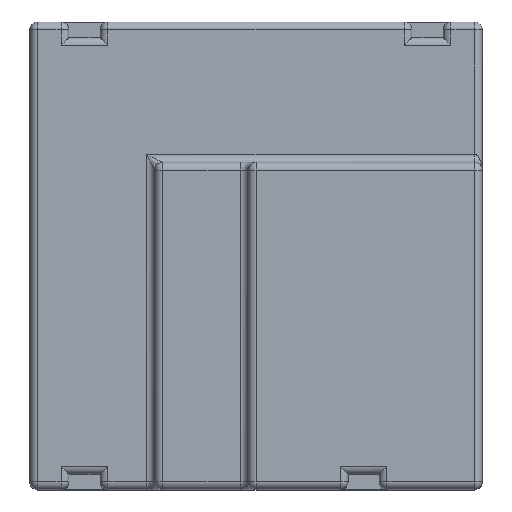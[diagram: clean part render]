
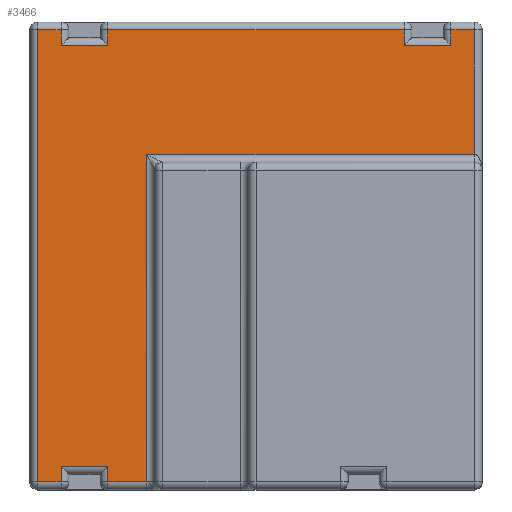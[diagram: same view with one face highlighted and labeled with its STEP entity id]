
A CAD part, top view. The second image highlights one B-rep face of the part: STEP entity #3466.
In plain terms, the highlighted planar face has unit normal (0, 0, 1).
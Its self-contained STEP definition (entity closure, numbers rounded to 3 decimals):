
#67=DIRECTION('',(0.,-1.,0.));
#68=VECTOR('',#67,21.);
#69=CARTESIAN_POINT('',(7.5,-8.5,10.2));
#70=LINE('',#69,#68);
#683=CARTESIAN_POINT('',(7.5,-8.5,10.2));
#693=DIRECTION('',(-1.,0.,0.));
#694=VECTOR('',#693,21.);
#695=CARTESIAN_POINT('',(28.5,-8.5,10.2));
#696=LINE('',#695,#694);
#719=DIRECTION('',(0.,1.,0.));
#720=VECTOR('',#719,1.);
#721=CARTESIAN_POINT('',(27.,-1.5,10.2));
#722=LINE('',#721,#720);
#1004=DIRECTION('',(0.,-1.,0.));
#1005=VECTOR('',#1004,8.);
#1006=CARTESIAN_POINT('',(28.5,-0.5,10.2));
#1007=LINE('',#1006,#1005);
#1035=DIRECTION('',(1.,0.,0.));
#1036=VECTOR('',#1035,1.5);
#1037=CARTESIAN_POINT('',(27.,-0.5,10.2));
#1038=LINE('',#1037,#1036);
#1099=DIRECTION('',(1.,0.,0.));
#1100=VECTOR('',#1099,3.);
#1101=CARTESIAN_POINT('',(24.,-1.5,10.2));
#1102=LINE('',#1101,#1100);
#1149=CARTESIAN_POINT('',(27.,-1.5,10.2));
#1166=DIRECTION('',(0.,-1.,0.));
#1167=VECTOR('',#1166,1.);
#1168=CARTESIAN_POINT('',(24.,-0.5,10.2));
#1169=LINE('',#1168,#1167);
#1213=DIRECTION('',(1.,0.,0.));
#1214=VECTOR('',#1213,19.);
#1215=CARTESIAN_POINT('',(5.,-0.5,10.2));
#1216=LINE('',#1215,#1214);
#1267=DIRECTION('',(0.,1.,0.));
#1268=VECTOR('',#1267,1.);
#1269=CARTESIAN_POINT('',(5.,-1.5,10.2));
#1270=LINE('',#1269,#1268);
#1311=DIRECTION('',(1.,0.,0.));
#1312=VECTOR('',#1311,3.);
#1313=CARTESIAN_POINT('',(2.,-1.5,10.2));
#1314=LINE('',#1313,#1312);
#1405=DIRECTION('',(0.,-1.,0.));
#1406=VECTOR('',#1405,1.);
#1407=CARTESIAN_POINT('',(2.,-0.5,10.2));
#1408=LINE('',#1407,#1406);
#1474=DIRECTION('',(1.,0.,0.));
#1475=VECTOR('',#1474,1.5);
#1476=CARTESIAN_POINT('',(0.5,-0.5,10.2));
#1477=LINE('',#1476,#1475);
#1520=DIRECTION('',(0.,1.,0.));
#1521=VECTOR('',#1520,29.);
#1522=CARTESIAN_POINT('',(0.5,-29.5,10.2));
#1523=LINE('',#1522,#1521);
#1573=DIRECTION('',(-1.,0.,0.));
#1574=VECTOR('',#1573,1.5);
#1575=CARTESIAN_POINT('',(2.,-29.5,10.2));
#1576=LINE('',#1575,#1574);
#1620=DIRECTION('',(0.,-1.,0.));
#1621=VECTOR('',#1620,1.);
#1622=CARTESIAN_POINT('',(2.,-28.5,10.2));
#1623=LINE('',#1622,#1621);
#1664=DIRECTION('',(-1.,0.,0.));
#1665=VECTOR('',#1664,3.);
#1666=CARTESIAN_POINT('',(5.,-28.5,10.2));
#1667=LINE('',#1666,#1665);
#1758=DIRECTION('',(0.,1.,0.));
#1759=VECTOR('',#1758,1.);
#1760=CARTESIAN_POINT('',(5.,-29.5,10.2));
#1761=LINE('',#1760,#1759);
#1827=DIRECTION('',(-1.,0.,0.));
#1828=VECTOR('',#1827,2.5);
#1829=CARTESIAN_POINT('',(7.5,-29.5,10.2));
#1830=LINE('',#1829,#1828);
#2534=VERTEX_POINT('',#683);
#2594=CARTESIAN_POINT('',(7.5,-29.5,10.2));
#2595=VERTEX_POINT('',#2594);
#2613=CARTESIAN_POINT('',(24.,-0.5,10.2));
#2614=VERTEX_POINT('',#2613);
#2615=CARTESIAN_POINT('',(24.,-1.5,10.2));
#2616=VERTEX_POINT('',#2615);
#2620=CARTESIAN_POINT('',(27.,-0.5,10.2));
#2622=VERTEX_POINT('',#2620);
#2628=VERTEX_POINT('',#1149);
#2637=CARTESIAN_POINT('',(5.,-0.5,10.2));
#2638=VERTEX_POINT('',#2637);
#2639=CARTESIAN_POINT('',(5.,-1.5,10.2));
#2640=VERTEX_POINT('',#2639);
#2641=CARTESIAN_POINT('',(2.,-1.5,10.2));
#2642=VERTEX_POINT('',#2641);
#2643=CARTESIAN_POINT('',(2.,-0.5,10.2));
#2644=VERTEX_POINT('',#2643);
#2645=CARTESIAN_POINT('',(0.5,-0.5,10.2));
#2646=VERTEX_POINT('',#2645);
#2647=CARTESIAN_POINT('',(0.5,-29.5,10.2));
#2648=VERTEX_POINT('',#2647);
#2649=CARTESIAN_POINT('',(2.,-29.5,10.2));
#2650=VERTEX_POINT('',#2649);
#2651=CARTESIAN_POINT('',(2.,-28.5,10.2));
#2652=VERTEX_POINT('',#2651);
#2653=CARTESIAN_POINT('',(5.,-28.5,10.2));
#2654=VERTEX_POINT('',#2653);
#2655=CARTESIAN_POINT('',(5.,-29.5,10.2));
#2656=VERTEX_POINT('',#2655);
#2657=CARTESIAN_POINT('',(28.5,-8.5,10.2));
#2658=VERTEX_POINT('',#2657);
#2659=CARTESIAN_POINT('',(28.5,-0.5,10.2));
#2660=VERTEX_POINT('',#2659);
#3425=CARTESIAN_POINT('',(8.,0.,10.2));
#3426=DIRECTION('',(0.,0.,-1.));
#3427=DIRECTION('',(-1.,0.,0.));
#3428=AXIS2_PLACEMENT_3D('',#3425,#3426,#3427);
#3429=PLANE('',#3428);
#3431=ORIENTED_EDGE('',*,*,#3430,.T.);
#3433=ORIENTED_EDGE('',*,*,#3432,.T.);
#3435=ORIENTED_EDGE('',*,*,#3434,.T.);
#3436=ORIENTED_EDGE('',*,*,#3416,.T.);
#3437=ORIENTED_EDGE('',*,*,#2925,.T.);
#3439=ORIENTED_EDGE('',*,*,#3438,.T.);
#3441=ORIENTED_EDGE('',*,*,#3440,.T.);
#3443=ORIENTED_EDGE('',*,*,#3442,.T.);
#3445=ORIENTED_EDGE('',*,*,#3444,.T.);
#3447=ORIENTED_EDGE('',*,*,#3446,.T.);
#3449=ORIENTED_EDGE('',*,*,#3448,.T.);
#3451=ORIENTED_EDGE('',*,*,#3450,.T.);
#3453=ORIENTED_EDGE('',*,*,#3452,.T.);
#3455=ORIENTED_EDGE('',*,*,#3454,.T.);
#3457=ORIENTED_EDGE('',*,*,#3456,.T.);
#3459=ORIENTED_EDGE('',*,*,#3458,.T.);
#3461=ORIENTED_EDGE('',*,*,#3460,.T.);
#3463=ORIENTED_EDGE('',*,*,#3462,.T.);
#3464=EDGE_LOOP('',(#3431,#3433,#3435,#3436,#3437,#3439,#3441,#3443,#3445,#3447,
#3449,#3451,#3453,#3455,#3457,#3459,#3461,#3463));
#3465=FACE_OUTER_BOUND('',#3464,.F.);
#3466=ADVANCED_FACE('',(#3465),#3429,.F.);
#2925=EDGE_CURVE('',#2534,#2595,#70,.T.);
#3416=EDGE_CURVE('',#2658,#2534,#696,.T.);
#3430=EDGE_CURVE('',#2628,#2622,#722,.T.);
#3432=EDGE_CURVE('',#2622,#2660,#1038,.T.);
#3434=EDGE_CURVE('',#2660,#2658,#1007,.T.);
#3438=EDGE_CURVE('',#2595,#2656,#1830,.T.);
#3440=EDGE_CURVE('',#2656,#2654,#1761,.T.);
#3442=EDGE_CURVE('',#2654,#2652,#1667,.T.);
#3444=EDGE_CURVE('',#2652,#2650,#1623,.T.);
#3446=EDGE_CURVE('',#2650,#2648,#1576,.T.);
#3448=EDGE_CURVE('',#2648,#2646,#1523,.T.);
#3450=EDGE_CURVE('',#2646,#2644,#1477,.T.);
#3452=EDGE_CURVE('',#2644,#2642,#1408,.T.);
#3454=EDGE_CURVE('',#2642,#2640,#1314,.T.);
#3456=EDGE_CURVE('',#2640,#2638,#1270,.T.);
#3458=EDGE_CURVE('',#2638,#2614,#1216,.T.);
#3460=EDGE_CURVE('',#2614,#2616,#1169,.T.);
#3462=EDGE_CURVE('',#2616,#2628,#1102,.T.);
